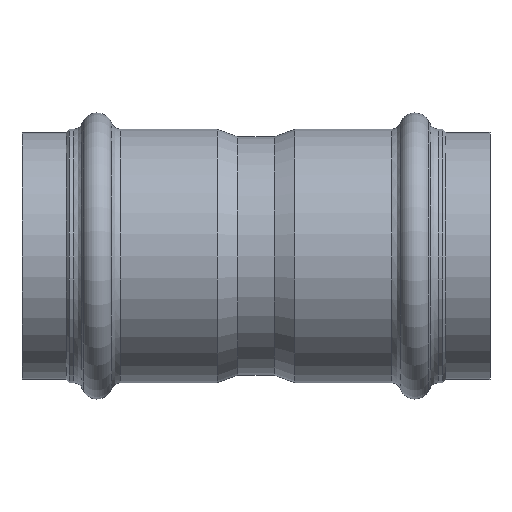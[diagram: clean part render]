
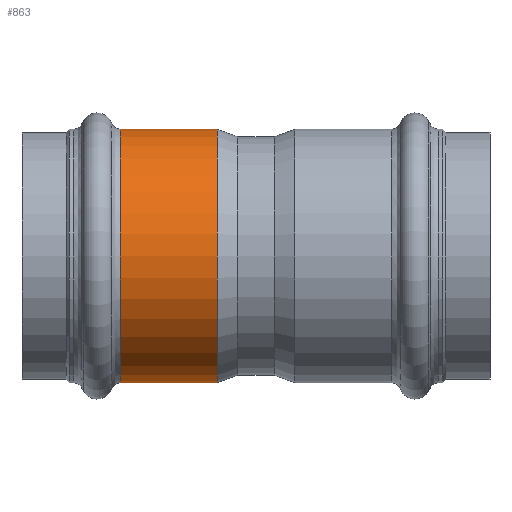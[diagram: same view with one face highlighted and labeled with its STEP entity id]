
A CAD part, front view. The second image highlights one B-rep face of the part: STEP entity #863.
In plain terms, the highlighted cylindrical face has radius 28.675 mm (diameter 57.35 mm), a full revolution.
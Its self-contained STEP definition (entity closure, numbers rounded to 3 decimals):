
#829=CARTESIAN_POINT('',(-30.794,28.675,0.0));
#830=VERTEX_POINT('',#829);
#831=CARTESIAN_POINT('',(-30.794,0.,0.0));
#832=DIRECTION('',(1.0,0.0,0.0));
#833=DIRECTION('',(0.0,1.0,0.0));
#834=AXIS2_PLACEMENT_3D('',#831,#832,#833);
#835=CIRCLE('',#834,28.675);
#836=EDGE_CURVE('',#830,#830,#835,.T.);
#844=CARTESIAN_POINT('',(-19.765,0.,0.0));
#845=DIRECTION('',(1.0,0.,0.0));
#846=DIRECTION('',(0.0,1.0,0.0));
#847=AXIS2_PLACEMENT_3D('',#844,#845,#846);
#848=CYLINDRICAL_SURFACE('',#847,28.675);
#849=CARTESIAN_POINT('',(-8.736,28.675,0.0));
#850=VERTEX_POINT('',#849);
#851=CARTESIAN_POINT('',(-8.736,0.,0.0));
#852=DIRECTION('',(1.0,0.0,0.0));
#853=DIRECTION('',(0.0,1.0,0.0));
#854=AXIS2_PLACEMENT_3D('',#851,#852,#853);
#855=CIRCLE('',#854,28.675);
#856=EDGE_CURVE('',#850,#850,#855,.T.);
#857=ORIENTED_EDGE('',*,*,#856,.F.);
#858=EDGE_LOOP('',(#857));
#859=FACE_OUTER_BOUND('',#858,.T.);
#860=ORIENTED_EDGE('',*,*,#836,.T.);
#861=EDGE_LOOP('',(#860));
#862=FACE_BOUND('',#861,.T.);
#863=ADVANCED_FACE('',(#859,#862),#848,.T.);
